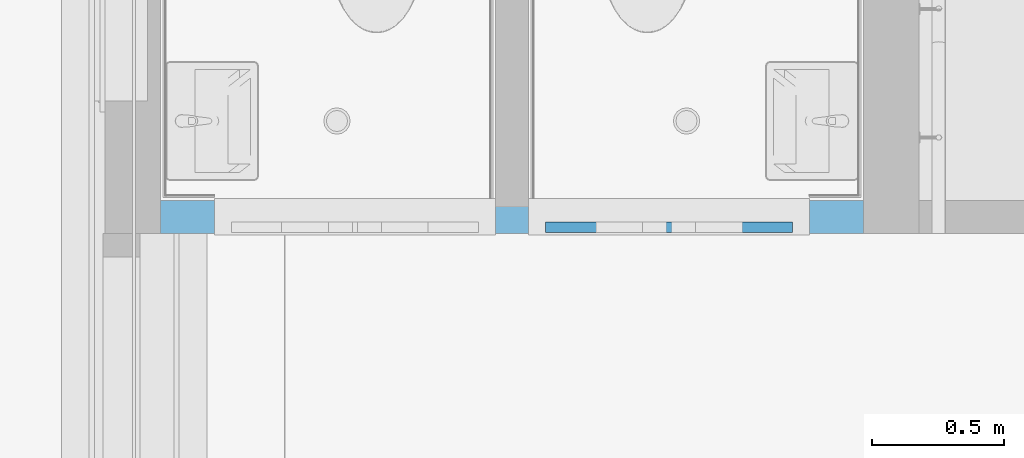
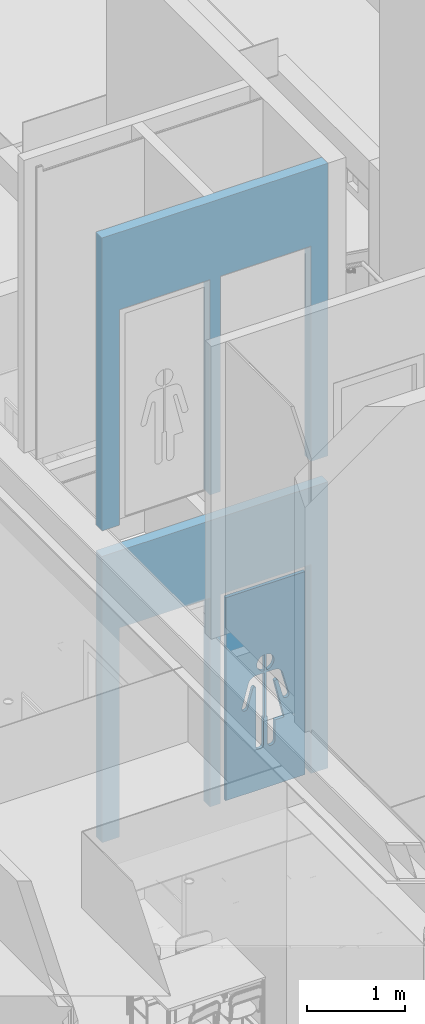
# One storey, part 57 of 347: 1 building element part, 4 openings, 1 element without a shape of its own, plus 1 element that does not belong to this part.
"""IFC2X3 building model written with IfcOpenShell, lengths in millimetres."""

import ifcopenshell
import ifcopenshell.guid

model = None  # the IFC model being written
_history = None  # IfcOwnerHistory: only IFC2X3 demands one
_inside = {}  # id of a spatial element -> (the spatial element, [elements in it])
_under = {}  # id of a project, library or spatial element -> (it, [spatial elements below it])
_declared = {}  # id of a project -> (the project, [libraries it declares])
_typed = {}  # id of a type object -> (the type object, [elements of that type])
_made_of = {}  # id of a material, layer set ... -> (it, [elements and type objects made of it])


def new_model(schema):
    """Start an empty IFC model of exactly this schema.

    Asked for "IFC4X3", IfcOpenShell would pick the latest addendum, in which some entities
    have other attributes; the version numbers below select the first issue.
    IFC2X3 requires an IfcOwnerHistory on every rooted entity: one is made here for all.
    """
    global model, _history
    if schema == "IFC4X3":
        model = ifcopenshell.file(schema_version=(4, 3, 0, 0))
    else:
        model = ifcopenshell.file(schema=schema)
    _inside.clear()
    _under.clear()
    _declared.clear()
    _typed.clear()
    _made_of.clear()
    _history = None
    if model.schema == "IFC2X3":
        org = make("IfcOrganization", Name="unknown")
        user = make(
            "IfcPersonAndOrganization",
            ThePerson=make("IfcPerson", FamilyName="unknown"),
            TheOrganization=org,
        )
        app = make(
            "IfcApplication",
            ApplicationDeveloper=org,
            Version="unknown",
            ApplicationFullName="unknown",
            ApplicationIdentifier="unknown",
        )
        _history = make(
            "IfcOwnerHistory",
            OwningUser=user,
            OwningApplication=app,
            ChangeAction="ADDED",
            CreationDate=0,
        )
    return model


def make(cls, **values):
    """One entity of the class cls with the attributes given. An attribute that is None is left unset."""
    return model.create_entity(
        cls, **{name: value for name, value in values.items() if value is not None}
    )


def entity(cls, *values):
    """Any entity or typed value of the class cls, its attributes in the order of the schema. None: left unset."""
    e = model.create_entity(cls)
    for i, value in enumerate(values):
        if value is not None:
            e[i] = value
    return e


def rooted(cls, **values):
    """An entity with a GlobalId (a new one), such as an element, a storey or a relation."""
    return make(cls, GlobalId=ifcopenshell.guid.new(), OwnerHistory=_history, **values)


def si_unit(unit_type, name, prefix=None):
    """IfcSIUnit, for example si_unit("LENGTHUNIT", "METRE", prefix="MILLI")."""
    return make("IfcSIUnit", UnitType=unit_type, Prefix=prefix, Name=name)


def converted_unit(unit_type, name, factor, base, dimensions=None, offset=None):
    """IfcConversionBasedUnit, such as the inch: factor (a typed value) times the base unit."""
    return make(
        "IfcConversionBasedUnit"
        if offset is None
        else "IfcConversionBasedUnitWithOffset",
        ConversionOffset=offset,
        Dimensions=None
        if dimensions is None
        else entity("IfcDimensionalExponents", *dimensions),
        UnitType=unit_type,
        Name=name,
        ConversionFactor=make(
            "IfcMeasureWithUnit", ValueComponent=factor, UnitComponent=base
        ),
    )


def derived_unit(unit_type, elements):
    """IfcDerivedUnit: a product of units, each with its exponent."""
    return make(
        "IfcDerivedUnit",
        Elements=[
            make("IfcDerivedUnitElement", Unit=unit, Exponent=power)
            for unit, power in elements
        ],
        UnitType=unit_type,
    )


def money_unit(currency):
    """IfcMonetaryUnit."""
    return make("IfcMonetaryUnit", Currency=currency)


def assignment(units):
    """IfcUnitAssignment: the units of a project."""
    return None if units is None else make("IfcUnitAssignment", Units=units)


def point(xyz):
    """IfcCartesianPoint."""
    return None if xyz is None else make("IfcCartesianPoint", Coordinates=xyz)


def direction(xyz):
    """IfcDirection."""
    return None if xyz is None else make("IfcDirection", DirectionRatios=xyz)


def frame(location, z_axis=None, x_axis=None):
    """IfcAxis2Placement3D, a coordinate frame: its origin and axes. An axis left out is left unset."""
    return make(
        "IfcAxis2Placement3D",
        Location=point(location),
        Axis=direction(z_axis),
        RefDirection=direction(x_axis),
    )


def origin_with_axes():
    """The frame at (0, 0, 0) with the z axis (0, 0, 1) and the x axis (1, 0, 0) written out."""
    return frame((0.0, 0.0, 0.0), z_axis=(0.0, 0.0, 1.0), x_axis=(1.0, 0.0, 0.0))


def place(relative_to, where):
    """IfcLocalPlacement: puts the frame where relative to a parent placement (None: the world)."""
    return make(
        "IfcLocalPlacement", PlacementRelTo=relative_to, RelativePlacement=where
    )


def context(
    kind, dimensions, precision=None, world=None, true_north=None, identifier=None
):
    """IfcGeometricRepresentationContext, for example the 3D "Model" context."""
    return make(
        "IfcGeometricRepresentationContext",
        ContextIdentifier=identifier,
        ContextType=kind,
        CoordinateSpaceDimension=dimensions,
        Precision=precision,
        WorldCoordinateSystem=world,
        TrueNorth=true_north,
    )


def subcontext(parent, identifier, kind, view, scale=None):
    """IfcGeometricRepresentationSubContext, for example "Body" below "Model"."""
    return make(
        "IfcGeometricRepresentationSubContext",
        ContextIdentifier=identifier,
        ContextType=kind,
        ParentContext=parent,
        TargetScale=scale,
        TargetView=view,
    )


def project(units=None, contexts=None):
    """IfcProject with its units and contexts."""
    return rooted(
        "IfcProject",
        Name="project",
        RepresentationContexts=contexts,
        UnitsInContext=assignment(units),
    )


def spatial(cls, under=None, at=None, **own):
    """A site, building, storey or space (cls), placed at a placement, below another one or the project."""
    s = rooted(cls, ObjectPlacement=at, **own)
    if under is not None:
        _under.setdefault(under.id(), (under, []))[1].append(s)
    return s


def faces_of(points, faces, orient=None, outer=None):
    """IfcFace entities. A face is a list of loops; a loop is a list of indices into points, from 0.

    orient and outer hold one flag for each loop. By default every Orientation is true, the
    first loop of a face is its IfcFaceOuterBound and the others are IfcFaceBound.
    """
    made = []
    for i, loops in enumerate(faces):
        bounds = []
        for j, loop in enumerate(loops):
            is_outer = j == 0 if outer is None else outer[i][j]
            bounds.append(
                make(
                    "IfcFaceOuterBound" if is_outer else "IfcFaceBound",
                    Bound=make("IfcPolyLoop", Polygon=[points[k] for k in loop]),
                    Orientation=True if orient is None else orient[i][j],
                )
            )
        made.append(make("IfcFace", Bounds=bounds))
    return made


def faceted_brep(points, faces, orient=None, outer=None, voids=None):
    """IfcFacetedBrep: a solid bounded by flat faces; with voids (closed shells), ...WithVoids."""
    shared = [point(p) for p in points]
    hull = make("IfcClosedShell", CfsFaces=faces_of(shared, faces, orient, outer))
    if voids is None:
        return make("IfcFacetedBrep", Outer=hull)
    return make(
        "IfcFacetedBrepWithVoids",
        Outer=hull,
        Voids=[
            make(cls, CfsFaces=faces_of(shared, fs, o, b)) for cls, fs, o, b in voids
        ],
    )


def shape(context_of_items, identifier, shape_type, items):
    """IfcShapeRepresentation: the items that make up one representation, for example the "Body"."""
    return make(
        "IfcShapeRepresentation",
        ContextOfItems=context_of_items,
        RepresentationIdentifier=identifier,
        RepresentationType=shape_type,
        Items=items,
    )


def source(mapping_origin, context_of_items, identifier, shape_type, items):
    """IfcRepresentationMap: a shape defined once, which mapped items show again and again."""
    return make(
        "IfcRepresentationMap",
        MappingOrigin=mapping_origin,
        MappedRepresentation=shape(context_of_items, identifier, shape_type, items),
    )


def transform(
    local_origin,
    x_axis=None,
    y_axis=None,
    z_axis=None,
    scale=None,
    scale2=None,
    scale3=None,
    uniform=True,
):
    """IfcCartesianTransformationOperator3D, or its non-uniform kind. x_axis, y_axis, z_axis: its Axis1, 2, 3."""
    if uniform:
        return make(
            "IfcCartesianTransformationOperator3D",
            Axis1=direction(x_axis),
            Axis2=direction(y_axis),
            LocalOrigin=point(local_origin),
            Scale=scale,
            Axis3=direction(z_axis),
        )
    return make(
        "IfcCartesianTransformationOperator3DnonUniform",
        Axis1=direction(x_axis),
        Axis2=direction(y_axis),
        LocalOrigin=point(local_origin),
        Scale=scale,
        Axis3=direction(z_axis),
        Scale2=scale2,
        Scale3=scale3,
    )


def mapped(mapping_source, mapping_target):
    """IfcMappedItem: shows the shape of a source again, moved by a transform."""
    return make(
        "IfcMappedItem", MappingSource=mapping_source, MappingTarget=mapping_target
    )


def material(Name=None, Category=None):
    """IfcMaterial."""
    return make("IfcMaterial", Name=Name, Category=Category)


def made_of(thing, what):
    """Note that an element or type object is made of a material, layer set ...; save() writes the relation."""
    if what is not None:
        _made_of.setdefault(what.id(), (what, []))[1].append(thing)
    return thing


def type_object(cls, material=None, **own):
    """A type object (cls), such as IfcWallType, which elements share."""
    return made_of(rooted(cls, **own), material)


def element(
    cls,
    number,
    at=None,
    inside=None,
    cuts=None,
    type_object=None,
    material=None,
    context=None,
    identifier="Body",
    shape_type=None,
    held_by="IfcProductDefinitionShape",
    body=None,
    shapes=None,
    **own,
):
    """One element of the class cls, such as IfcWall. Its Tag is "e" and its number.

    at: its placement. inside: the storey or other place that contains it. cuts: it is an
    opening in that element (IfcRelVoidsElement). A single representation is given by context,
    identifier, shape_type and body (its items); several are given by shapes. held_by: the class
    of the entity that holds the representations. save() writes the other relations.
    """
    e = rooted(cls, Tag="e%d" % number, ObjectPlacement=at, **own)
    if body is not None:
        shapes = [shape(context, identifier, shape_type, body)]
    if shapes is not None:
        e.Representation = make(held_by, Representations=shapes)
    if inside is not None:
        _inside.setdefault(inside.id(), (inside, []))[1].append(e)
    if cuts is not None:
        rooted(
            "IfcRelVoidsElement", RelatingBuildingElement=cuts, RelatedOpeningElement=e
        )
    if type_object is not None:
        _typed.setdefault(type_object.id(), (type_object, []))[1].append(e)
    return made_of(e, material)


def fill(opening, filler):
    """IfcRelFillsElement: the door or window that sits in an opening."""
    return rooted(
        "IfcRelFillsElement",
        RelatingOpeningElement=opening,
        RelatedBuildingElement=filler,
    )


def aggregate(whole, parts):
    """IfcRelAggregates: a whole, such as a stair, and the parts it consists of."""
    return rooted("IfcRelAggregates", RelatingObject=whole, RelatedObjects=parts)


def save(model, path):
    """Write the relations noted so far, then the file.

    IfcRelAggregates (storeys below a building ...), IfcRelContainedInSpatialStructure (elements
    in a storey), IfcRelDefinesByType, IfcRelAssociatesMaterial and IfcRelDeclares: one each for
    every whole, place, type object, material and project.
    """
    for whole, parts in _under.values():
        aggregate(whole, parts)
    for where, things in _inside.values():
        rooted(
            "IfcRelContainedInSpatialStructure",
            RelatedElements=things,
            RelatingStructure=where,
        )
    for kind, things in _typed.values():
        rooted("IfcRelDefinesByType", RelatedObjects=things, RelatingType=kind)
    for what, things in _made_of.values():
        rooted("IfcRelAssociatesMaterial", RelatedObjects=things, RelatingMaterial=what)
    for by, libraries in _declared.values():
        rooted("IfcRelDeclares", RelatingContext=by, RelatedDefinitions=libraries)
    model.write(path)


model = new_model("IFC2X3")

# Units and contexts
model_context = context("Model", 3, precision=0.01, world=origin_with_axes(), true_north=direction((0.0, 1.0)))
plan_context = context("Plan", 3, precision=0.01, world=origin_with_axes(), true_north=direction((0.0, 1.0)))
body_context = subcontext(model_context, "Body", "Model", "MODEL_VIEW")
ifc_project = project(units=[si_unit("LENGTHUNIT", "METRE", prefix="MILLI"), si_unit("AREAUNIT", "SQUARE_METRE"), si_unit("VOLUMEUNIT", "CUBIC_METRE"), converted_unit("PLANEANGLEUNIT", "DEGREE", entity("IfcPlaneAngleMeasure", 0.0174532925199), si_unit("PLANEANGLEUNIT", "RADIAN"), dimensions=[0, 0, 0, 0, 0, 0, 0]), money_unit("EUR"), converted_unit("TIMEUNIT", "Year", entity("IfcTimeMeasure", 31556926.0), si_unit("TIMEUNIT", "SECOND"), dimensions=[0, 0, 1, 0, 0, 0, 0]), si_unit("MASSUNIT", "GRAM", prefix="KILO"), si_unit("THERMODYNAMICTEMPERATUREUNIT", "DEGREE_CELSIUS"), si_unit("LUMINOUSINTENSITYUNIT", "LUMEN"), si_unit("ENERGYUNIT", "JOULE", prefix="MEGA"), derived_unit("THERMALCONDUCTANCEUNIT", [(si_unit("POWERUNIT", "WATT"), 1), (si_unit("LENGTHUNIT", "METRE"), -1), (si_unit("THERMODYNAMICTEMPERATUREUNIT", "KELVIN"), -1)]), derived_unit("SPECIFICHEATCAPACITYUNIT", [(si_unit("ENERGYUNIT", "JOULE"), 1), (si_unit("MASSUNIT", "GRAM", prefix="KILO"), -1), (si_unit("THERMODYNAMICTEMPERATUREUNIT", "KELVIN"), -1)]), derived_unit("MASSDENSITYUNIT", [(si_unit("MASSUNIT", "GRAM", prefix="KILO"), 1), (si_unit("VOLUMEUNIT", "CUBIC_METRE"), -1)])], contexts=[model_context, plan_context])

# Site, building, storey
site_placement = place(None, origin_with_axes())
site = spatial("IfcSite", under=ifc_project, at=site_placement, Name="Site", CompositionType="ELEMENT")
building_placement = place(site_placement, origin_with_axes())
building = spatial("IfcBuilding", under=site, at=building_placement, Name="Naam gebouw", CompositionType="ELEMENT")
storey_placement = place(building_placement, origin_with_axes())
storey = spatial("IfcBuildingStorey", under=building, at=storey_placement, Name="begane grond", CompositionType="ELEMENT", Elevation=0.0)

# Wall, openings, door, building element part
ifc_material_1 = material(Name="ALG - LICHTE SCHEIDINGSWAND")
wall_type = type_object("IfcWallType", Name="ALG LSW 125 125", PredefinedType="NOTDEFINED")
wall_placement = place(storey_placement, frame((35705.0, 30074.9999277, 0.0), z_axis=(0.0, 0.0, 1.0), x_axis=(1.0, 0.0, 0.0)))
wall = element("IfcWall", 1, at=wall_placement, inside=storey, type_object=wall_type, material=ifc_material_1, Name="22_GF 125 ECO DGS/2.75.2A", context=body_context, shape_type="Brep", body=[
    faceted_brep([(1392.5, 125.0, 2600.0), (1392.5, 125.0, 0.0), (1267.5, 125.0, 0.0), (1267.5, 125.0, 2600.0), (203.5, 125.0, 2600.0), (203.5, 125.0, 0.0), (0.0, 125.0, 0.0), (0.0, 125.0, 3560.0), (2660.0, 125.0, 3560.0), (2660.0, 125.0, 0.0), (2456.5, 125.0, 0.0), (2456.5, 125.0, 2600.0), (1392.5, 0.0, 2600.0), (1392.5, 0.0, 0.0), (1267.5, 0.0, 0.0), (1267.5, 0.0, 2600.0), (203.5, 0.0, 2600.0), (203.5, 0.0, 0.0), (0.0, 0.0, 0.0), (0.0, 0.0, 3560.0), (2660.0, 0.0, 3560.0), (2660.0, 0.0, 0.0), (2456.5, 0.0, 0.0), (2456.5, 0.0, 2600.0)], [[[0, 1, 2, 3, 4, 5, 6, 7, 8, 9, 10, 11]], [[1, 0, 12, 13]], [[1, 13, 14, 2]], [[2, 14, 15, 3]], [[3, 15, 16, 4]], [[4, 16, 17, 5]], [[17, 18, 6, 5]], [[7, 6, 18, 19]], [[8, 7, 19, 20]], [[20, 21, 9, 8]], [[22, 10, 9, 21]], [[11, 10, 22, 23]], [[0, 11, 23, 12]], [[23, 22, 21, 20, 19, 18, 17, 16, 15, 14, 13, 12]]]),
    faceted_brep([(203.5, 125.0, 6560.0), (203.5, 125.0, 3960.0), (203.5, 125.0, 3880.0), (0.0, 125.0, 3880.0), (0.0, 125.0, 7520.0), (2660.0, 125.0, 7520.0), (2660.0, 125.0, 3880.0), (2456.5, 125.0, 3880.0), (2456.5, 125.0, 3960.0), (2456.5, 125.0, 6560.0), (1392.5, 125.0, 6560.0), (1392.5, 125.0, 3960.0), (1392.5, 125.0, 3880.0), (1267.5, 125.0, 3880.0), (1267.5, 125.0, 3960.0), (1267.5, 125.0, 6560.0), (203.5, 0.0, 6560.0), (203.5, 0.0, 3960.0), (203.5, 0.0, 3880.0), (0.0, 0.0, 3880.0), (0.0, 0.0, 7520.0), (2660.0, 0.0, 7520.0), (2660.0, 0.0, 3880.0), (2456.5, 0.0, 3880.0), (2456.5, 0.0, 3960.0), (2456.5, 0.0, 6560.0), (1392.5, 0.0, 6560.0), (1392.5, 0.0, 3960.0), (1392.5, 0.0, 3880.0), (1267.5, 0.0, 3880.0), (1267.5, 0.0, 3960.0), (1267.5, 0.0, 6560.0)], [[[0, 1, 2, 3, 4, 5, 6, 7, 8, 9, 10, 11, 12, 13, 14, 15]], [[1, 0, 16, 17]], [[1, 17, 18, 2]], [[18, 19, 3, 2]], [[19, 20, 4, 3]], [[4, 20, 21, 5]], [[6, 5, 21, 22]], [[7, 6, 22, 23]], [[8, 7, 23, 24]], [[8, 24, 25, 9]], [[9, 25, 26, 10]], [[10, 26, 27, 11]], [[27, 28, 12, 11]], [[28, 29, 13, 12]], [[30, 14, 13, 29]], [[15, 14, 30, 31]], [[0, 15, 31, 16]], [[31, 30, 29, 28, 27, 26, 25, 24, 23, 22, 21, 20, 19, 18, 17, 16]]]),
])
opening_1_placement = place(wall_placement, frame((735.5, 0.0, 0.0), z_axis=(0.0, 0.0, 1.0), x_axis=(1.0, 0.0, 0.0)))
element("IfcOpeningElement", 2, at=opening_1_placement, cuts=wall, Name="32_02.05", context=body_context, shape_type="Brep", body=[
    faceted_brep([(-532.0, 125.0, 2600.0), (-532.0, 125.0, 0.0), (-532.0, -257.0, 0.0), (-532.0, -257.0, 2600.0), (532.0, 125.0, 2600.0), (532.0, 125.0, 0.0), (532.0, -257.0, 0.0), (532.0, -257.0, 2600.0)], [[[0, 1, 2, 3]], [[0, 4, 5, 1]], [[1, 5, 6, 2]], [[3, 2, 6, 7]], [[4, 0, 3, 7]], [[5, 4, 7, 6]]]),
])
opening_2_placement = place(wall_placement, frame((1924.5, 0.0, 0.0), z_axis=(0.0, 0.0, 1.0), x_axis=(1.0, 0.0, 0.0)))
opening_2 = element("IfcOpeningElement", 3, at=opening_2_placement, cuts=wall, Name="32_02.05", context=body_context, shape_type="Brep", body=[
    faceted_brep([(-532.0, 125.0, 2600.0), (-532.0, 125.0, 0.0), (-532.0, -257.0, 0.0), (-532.0, -257.0, 2600.0), (532.0, 125.0, 2600.0), (532.0, 125.0, 0.0), (532.0, -257.0, 0.0), (532.0, -257.0, 2600.0)], [[[0, 1, 2, 3]], [[0, 4, 5, 1]], [[1, 5, 6, 2]], [[3, 2, 6, 7]], [[4, 0, 3, 7]], [[5, 4, 7, 6]]]),
])
opening_3_placement = place(wall_placement, frame((1924.5, 0.0, 3960.0), z_axis=(0.0, 0.0, 1.0), x_axis=(1.0, 0.0, 0.0)))
element("IfcOpeningElement", 4, at=opening_3_placement, cuts=wall, Name="32_02.05", context=body_context, shape_type="Brep", body=[
    faceted_brep([(-532.0, -125.0, 0.0), (-532.0, -125.0, 2600.0), (-532.0, 257.0, 2600.0), (-532.0, 257.0, 0.0), (532.0, -125.0, 0.0), (532.0, -125.0, 2600.0), (532.0, 257.0, 2600.0), (532.0, 257.0, 0.0)], [[[0, 1, 2, 3]], [[0, 4, 5, 1]], [[1, 5, 6, 2]], [[3, 2, 6, 7]], [[4, 0, 3, 7]], [[5, 4, 7, 6]]]),
])
opening_4_placement = place(wall_placement, frame((735.5, 0.0, 3960.0), z_axis=(0.0, 0.0, 1.0), x_axis=(1.0, 0.0, 0.0)))
element("IfcOpeningElement", 5, at=opening_4_placement, cuts=wall, Name="32_02.05", context=body_context, shape_type="Brep", body=[
    faceted_brep([(-532.0, -125.0, 0.0), (-532.0, -125.0, 2600.0), (-532.0, 257.0, 2600.0), (-532.0, 257.0, 0.0), (532.0, -125.0, 0.0), (532.0, -125.0, 2600.0), (532.0, 257.0, 2600.0), (532.0, 257.0, 0.0)], [[[0, 1, 2, 3]], [[0, 4, 5, 1]], [[1, 5, 6, 2]], [[3, 2, 6, 7]], [[4, 0, 3, 7]], [[5, 4, 7, 6]]]),
])
door_style = type_object("IfcDoorStyle", Name="D1 25", ConstructionType="NOTDEFINED", OperationType="SINGLE_SWING_RIGHT", ParameterTakesPrecedence=False, Sizeable=False)
door_placement = place(opening_2_placement, frame((532.0, 0.0, 0.0), z_axis=(0.0, 0.0, 1.0), x_axis=(-1.0, 0.0, 0.0)))
door = element("IfcDoor", 6, at=door_placement, inside=storey, type_object=door_style, Name="32_02.05", ObjectType="DOOR", OverallHeight=2600.0, OverallWidth=1064.0)
fill(opening_2, door)
ifc_material_2 = material(Name="Hout C")
shared_shape = source(origin_with_axes(), body_context, "Body", "Brep", [
    faceted_brep([(467.0, -10.0, 2535.0), (467.0, -50.0, 2535.0), (467.0, -50.0, 10.0), (467.0, -10.0, 10.0), (-467.0, -10.0, 2535.0), (-467.0, -50.0, 2535.0), (-467.0, -50.0, 10.0), (-10.0430200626, -50.0, 890.229090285), (-25.1075218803, -50.0, 890.229090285), (-25.1075218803, -50.0, 563.286854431), (-24.6932816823, -50.0, 559.546364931), (-25.1742831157, -50.0, 552.034934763), (-26.9501513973, -50.0, 544.721284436), (-29.9669276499, -50.0, 537.827635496), (-34.1329486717, -50.0, 531.563447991), (-39.3216320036, -50.0, 526.119056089), (-45.3753221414, -50.0, 521.659884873), (-52.1100807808, -50.0, 518.321424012), (-59.3212756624, -50.0, 516.205110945), (-66.7897983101, -50.0, 515.375248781), (-74.2887214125, -50.0, 515.857052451), (-81.5901940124, -50.0, 517.635882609), (-88.4723645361, -50.0, 520.657690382), (-94.7261217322, -50.0, 524.830659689), (-100.161448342, -50.0, 530.027996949), (-104.613194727, -50.0, 536.091783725), (-107.946096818, -50.0, 542.8377749), (-110.058886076, -50.0, 550.06099695), (-110.887366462, -50.0, 557.54197595), (-110.473126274, -50.0, 563.286854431), (-110.473126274, -50.0, 814.780876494), (-219.866038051, -50.0, 814.780876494), (-108.013455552, -50.0, 1292.61952191), (-108.785274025, -50.0, 1296.47224326), (-110.199691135, -50.0, 1299.82482097), (-112.173819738, -50.0, 1302.8804449), (-114.647676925, -50.0, 1305.54627145), (-117.546095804, -50.0, 1307.74130085), (-120.781009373, -50.0, 1309.39883823), (-124.254126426, -50.0, 1310.46852015), (-127.859918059, -50.0, 1310.91784487), (-131.488824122, -50.0, 1310.73315989), (-135.030582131, -50.0, 1309.92007677), (-138.377577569, -50.0, 1308.50330061), (-141.428113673, -50.0, 1306.52587948), (-144.089501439, -50.0, 1304.04789628), (-146.280875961, -50.0, 1301.14464328), (-147.935653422, -50.0, 1297.90433437), (-149.003554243, -50.0, 1294.42542469), (-149.227842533, -50.0, 1292.61952191), (-207.923578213, -50.0, 1073.19870027), (-208.719139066, -50.0, 1070.22315824), (-211.317762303, -50.0, 1064.63924071), (-214.844929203, -50.0, 1059.59215425), (-219.193468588, -50.0, 1055.235252), (-224.231252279, -50.0, 1051.70091623), (-229.805209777, -50.0, 1049.09653598), (-235.745979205, -50.0, 1047.50124399), (-241.873053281, -50.0, 1046.96351241), (-248.000263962, -50.0, 1047.49967995), (-253.941439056, -50.0, 1049.09345542), (-259.516058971, -50.0, 1051.69641276), (-264.554741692, -50.0, 1055.22946244), (-268.904389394, -50.0, 1059.58525451), (-272.432840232, -50.0, 1064.63144045), (-275.032884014, -50.0, 1070.21469446), (-276.625519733, -50.0, 1076.16537218), (-277.162355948, -50.0, 1082.30266527), (-276.62708117, -50.0, 1088.44009521), (-275.831520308, -50.0, 1091.41563724), (-201.58891637, -50.0, 1368.954906), (-199.31480372, -50.0, 1377.45616444), (-191.888136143, -50.0, 1393.40926659), (-181.808681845, -50.0, 1407.82822709), (-169.382699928, -50.0, 1420.27493311), (-154.98774758, -50.0, 1430.37119778), (-139.061208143, -50.0, 1437.81025123), (-122.087001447, -50.0, 1442.36606156), (-104.580882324, -50.0, 1443.51593625), (-10.0430200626, -50.0, 1443.51593625), (-10.0430200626, -50.0, 1669.35630499), (-10.0430200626, -50.0, 1469.16959144), (-18.7854730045, -50.0, 1470.04970729), (-35.6995917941, -50.0, 1474.82448312), (-51.5289965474, -50.0, 1482.46872393), (-65.7927188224, -50.0, 1492.75016333), (-78.0573626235, -50.0, 1505.35640498), (-87.9502729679, -50.0, 1519.90441461), (-95.1708587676, -50.0, 1535.9521583), (-99.4997261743, -50.0, 1553.01203348), (-100.430107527, -50.0, 1569.26294821), (-100.430107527, -50.0, 1578.06409863), (-97.3785895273, -50.0, 1595.39898096), (-91.368272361, -50.0, 1611.93973315), (-82.5817764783, -50.0, 1627.18377283), (-71.2860751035, -50.0, 1640.66791757), (-57.8243824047, -50.0, 1651.98245845), (-42.6057251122, -50.0, 1660.78360886), (-26.0925144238, -50.0, 1666.80395031), (10.0430200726, -50.0, 1669.35630499), (18.7854730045, -50.0, 1668.47618914), (35.6995917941, -50.0, 1663.7014133), (51.5289965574, -50.0, 1656.05717249), (65.7927188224, -50.0, 1645.77573309), (78.0573626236, -50.0, 1633.16949145), (87.9502729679, -50.0, 1618.62148182), (95.1708587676, -50.0, 1602.57373813), (99.4997261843, -50.0, 1585.51386294), (100.430107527, -50.0, 1569.26294821), (100.430107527, -50.0, 1560.4617978), (97.3785895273, -50.0, 1543.12691547), (91.368272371, -50.0, 1526.58616327), (82.5817764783, -50.0, 1511.34212359), (71.2860751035, -50.0, 1497.85797885), (57.8243824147, -50.0, 1486.54343798), (42.6057251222, -50.0, 1477.74228756), (26.0925144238, -50.0, 1471.72194611), (10.0430200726, -50.0, 1469.16959144), (276.62552127, -50.0, 1088.44895872), (277.162357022, -50.0, 1082.31166558), (276.627081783, -50.0, 1076.17423568), (275.035959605, -50.0, 1070.22315174), (272.437335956, -50.0, 1064.63923441), (268.910168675, -50.0, 1059.59214821), (264.561628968, -50.0, 1055.23524628), (259.523845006, -50.0, 1051.70091091), (253.949887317, -50.0, 1049.09653107), (248.009117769, -50.0, 1047.50123953), (241.882043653, -50.0, 1046.96350842), (235.754833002, -50.0, 1047.49967641), (229.813658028, -50.0, 1049.09345233), (224.239038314, -50.0, 1051.6964101), (219.200355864, -50.0, 1055.22946015), (214.850708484, -50.0, 1059.58525256), (211.322258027, -50.0, 1064.63143877), (208.722214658, -50.0, 1070.21469297), (207.923578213, -50.0, 1073.19870026), (149.011836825, -50.0, 1292.61952191), (148.349375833, -50.0, 1295.95494878), (147.047948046, -50.0, 1299.10211348), (145.220702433, -50.0, 1301.97509819), (142.923158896, -50.0, 1304.48660874), (140.225127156, -50.0, 1306.56033414), (137.208585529, -50.0, 1308.13326528), (133.965190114, -50.0, 1309.15760948), (130.593489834, -50.0, 1309.60224253), (127.195932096, -50.0, 1309.45365449), (123.875749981, -50.0, 1308.71636013), (120.733825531, -50.0, 1307.41276178), (117.865624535, -50.0, 1305.58246859), (115.358295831, -50.0, 1303.2810931), (113.288023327, -50.0, 1300.57856146), (111.717711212, -50.0, 1297.5569887), (110.695072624, -50.0, 1294.3081838), (110.473126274, -50.0, 1292.61952191), (110.473126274, -50.0, 563.286854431), (110.887366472, -50.0, 559.546364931), (110.406365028, -50.0, 552.034934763), (108.630496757, -50.0, 544.721284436), (105.613720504, -50.0, 537.827635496), (101.447699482, -50.0, 531.563447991), (96.2590161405, -50.0, 526.119056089), (90.2053260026, -50.0, 521.659884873), (83.4705673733, -50.0, 518.321424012), (76.2593724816, -50.0, 516.205110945), (68.790849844, -50.0, 515.375248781), (61.2919267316, -50.0, 515.857052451), (53.9904541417, -50.0, 517.635882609), (47.1082836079, -50.0, 520.657690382), (40.8545264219, -50.0, 524.830659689), (35.4191998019, -50.0, 530.027996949), (30.9674534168, -50.0, 536.091783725), (27.6345513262, -50.0, 542.8377749), (25.5217620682, -50.0, 550.06099695), (24.6932816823, -50.0, 557.54197595), (25.1075218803, -50.0, 563.286854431), (25.1075218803, -50.0, 890.229090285), (10.0430200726, -50.0, 890.229090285), (10.0430200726, -50.0, 1443.51593625), (104.580882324, -50.0, 1443.51593625), (113.367378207, -50.0, 1443.51593625), (130.673396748, -50.0, 1440.4593288), (147.186607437, -50.0, 1434.43898735), (162.405264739, -50.0, 1425.63783693), (175.866957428, -50.0, 1414.32329606), (187.162658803, -50.0, 1400.83915132), (195.949154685, -50.0, 1385.59511164), (201.58891637, -50.0, 1368.954906), (-467.0, -10.0, 10.0), (-10.0430200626, -10.0, 890.229090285), (-10.0430200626, -10.0, 1443.51593625), (-104.580882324, -10.0, 1443.51593625), (-122.087001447, -10.0, 1442.36606156), (-139.061208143, -10.0, 1437.81025123), (-154.98774758, -10.0, 1430.37119778), (-169.382699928, -10.0, 1420.27493311), (-181.808681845, -10.0, 1407.82822709), (-191.888136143, -10.0, 1393.40926659), (-199.31480372, -10.0, 1377.45616444), (-201.58891637, -10.0, 1368.954906), (-275.831520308, -10.0, 1091.41563724), (-276.62708117, -10.0, 1088.44009521), (-277.162355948, -10.0, 1082.30266527), (-276.625519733, -10.0, 1076.16537218), (-275.032884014, -10.0, 1070.21469446), (-272.432840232, -10.0, 1064.63144045), (-268.904389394, -10.0, 1059.58525451), (-264.554741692, -10.0, 1055.22946244), (-259.516058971, -10.0, 1051.69641276), (-253.941439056, -10.0, 1049.09345542), (-248.000263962, -10.0, 1047.49967995), (-241.873053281, -10.0, 1046.96351241), (-235.745979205, -10.0, 1047.50124399), (-229.805209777, -10.0, 1049.09653598), (-224.231252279, -10.0, 1051.70091623), (-219.193468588, -10.0, 1055.235252), (-214.844929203, -10.0, 1059.59215425), (-211.317762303, -10.0, 1064.63924071), (-208.719139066, -10.0, 1070.22315824), (-207.923578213, -10.0, 1073.19870027), (-149.227842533, -10.0, 1292.61952191), (-149.003554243, -10.0, 1294.42542469), (-147.935653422, -10.0, 1297.90433437), (-146.280875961, -10.0, 1301.14464328), (-144.089501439, -10.0, 1304.04789628), (-141.428113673, -10.0, 1306.52587948), (-138.377577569, -10.0, 1308.50330061), (-135.030582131, -10.0, 1309.92007677), (-131.488824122, -10.0, 1310.73315989), (-127.859918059, -10.0, 1310.91784487), (-124.254126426, -10.0, 1310.46852015), (-120.781009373, -10.0, 1309.39883823), (-117.546095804, -10.0, 1307.74130085), (-114.647676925, -10.0, 1305.54627145), (-112.173819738, -10.0, 1302.8804449), (-110.199691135, -10.0, 1299.82482097), (-108.785274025, -10.0, 1296.47224326), (-108.013455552, -10.0, 1292.61952191), (-219.866038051, -10.0, 814.780876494), (-110.473126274, -10.0, 814.780876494), (-110.473126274, -10.0, 563.286854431), (-110.887366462, -10.0, 557.54197595), (-110.058886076, -10.0, 550.06099695), (-107.946096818, -10.0, 542.8377749), (-104.613194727, -10.0, 536.091783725), (-100.161448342, -10.0, 530.027996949), (-94.7261217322, -10.0, 524.830659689), (-88.4723645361, -10.0, 520.657690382), (-81.5901940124, -10.0, 517.635882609), (-74.2887214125, -10.0, 515.857052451), (-66.7897983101, -10.0, 515.375248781), (-59.3212756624, -10.0, 516.205110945), (-52.1100807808, -10.0, 518.321424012), (-45.3753221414, -10.0, 521.659884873), (-39.3216320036, -10.0, 526.119056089), (-34.1329486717, -10.0, 531.563447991), (-29.9669276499, -10.0, 537.827635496), (-26.9501513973, -10.0, 544.721284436), (-25.1742831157, -10.0, 552.034934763), (-24.6932816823, -10.0, 559.546364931), (-25.1075218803, -10.0, 563.286854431), (-25.1075218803, -10.0, 890.229090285), (-10.0430200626, -10.0, 1669.35630499), (-26.0925144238, -10.0, 1666.80395031), (-42.6057251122, -10.0, 1660.78360886), (-57.8243824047, -10.0, 1651.98245845), (-71.2860751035, -10.0, 1640.66791757), (-82.5817764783, -10.0, 1627.18377283), (-91.368272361, -10.0, 1611.93973315), (-97.3785895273, -10.0, 1595.39898096), (-100.430107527, -10.0, 1578.06409863), (-100.430107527, -10.0, 1569.26294821), (-99.4997261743, -10.0, 1553.01203348), (-95.1708587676, -10.0, 1535.9521583), (-87.9502729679, -10.0, 1519.90441461), (-78.0573626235, -10.0, 1505.35640498), (-65.7927188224, -10.0, 1492.75016333), (-51.5289965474, -10.0, 1482.46872393), (-35.6995917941, -10.0, 1474.82448312), (-18.7854730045, -10.0, 1470.04970729), (-10.0430200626, -10.0, 1469.16959144), (10.0430200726, -10.0, 1669.35630499), (10.0430200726, -10.0, 1469.16959144), (26.0925144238, -10.0, 1471.72194611), (42.6057251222, -10.0, 1477.74228756), (57.8243824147, -10.0, 1486.54343798), (71.2860751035, -10.0, 1497.85797885), (82.5817764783, -10.0, 1511.34212359), (91.368272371, -10.0, 1526.58616327), (97.3785895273, -10.0, 1543.12691547), (100.430107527, -10.0, 1560.4617978), (100.430107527, -10.0, 1569.26294821), (99.4997261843, -10.0, 1585.51386294), (95.1708587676, -10.0, 1602.57373813), (87.9502729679, -10.0, 1618.62148182), (78.0573626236, -10.0, 1633.16949145), (65.7927188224, -10.0, 1645.77573309), (51.5289965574, -10.0, 1656.05717249), (35.6995917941, -10.0, 1663.7014133), (18.7854730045, -10.0, 1668.47618914), (276.62552127, -10.0, 1088.44895872), (201.58891637, -10.0, 1368.954906), (195.949154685, -10.0, 1385.59511164), (187.162658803, -10.0, 1400.83915132), (175.866957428, -10.0, 1414.32329606), (162.405264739, -10.0, 1425.63783693), (147.186607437, -10.0, 1434.43898735), (130.673396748, -10.0, 1440.4593288), (113.367378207, -10.0, 1443.51593625), (104.580882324, -10.0, 1443.51593625), (10.0430200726, -10.0, 1443.51593625), (10.0430200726, -10.0, 890.229090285), (25.1075218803, -10.0, 890.229090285), (25.1075218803, -10.0, 563.286854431), (24.6932816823, -10.0, 557.54197595), (25.5217620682, -10.0, 550.06099695), (27.6345513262, -10.0, 542.8377749), (30.9674534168, -10.0, 536.091783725), (35.4191998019, -10.0, 530.027996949), (40.8545264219, -10.0, 524.830659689), (47.1082836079, -10.0, 520.657690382), (53.9904541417, -10.0, 517.635882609), (61.2919267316, -10.0, 515.857052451), (68.790849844, -10.0, 515.375248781), (76.2593724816, -10.0, 516.205110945), (83.4705673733, -10.0, 518.321424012), (90.2053260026, -10.0, 521.659884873), (96.2590161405, -10.0, 526.119056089), (101.447699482, -10.0, 531.563447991), (105.613720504, -10.0, 537.827635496), (108.630496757, -10.0, 544.721284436), (110.406365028, -10.0, 552.034934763), (110.887366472, -10.0, 559.546364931), (110.473126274, -10.0, 563.286854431), (110.473126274, -10.0, 1292.61952191), (110.695072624, -10.0, 1294.3081838), (111.717711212, -10.0, 1297.5569887), (113.288023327, -10.0, 1300.57856146), (115.358295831, -10.0, 1303.2810931), (117.865624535, -10.0, 1305.58246859), (120.733825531, -10.0, 1307.41276178), (123.875749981, -10.0, 1308.71636013), (127.195932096, -10.0, 1309.45365449), (130.593489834, -10.0, 1309.60224253), (133.965190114, -10.0, 1309.15760948), (137.208585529, -10.0, 1308.13326528), (140.225127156, -10.0, 1306.56033414), (142.923158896, -10.0, 1304.48660874), (145.220702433, -10.0, 1301.97509819), (147.047948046, -10.0, 1299.10211348), (148.349375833, -10.0, 1295.95494878), (149.011836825, -10.0, 1292.61952191), (207.923578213, -10.0, 1073.19870026), (208.722214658, -10.0, 1070.21469297), (211.322258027, -10.0, 1064.63143877), (214.850708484, -10.0, 1059.58525256), (219.200355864, -10.0, 1055.22946015), (224.239038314, -10.0, 1051.6964101), (229.813658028, -10.0, 1049.09345233), (235.754833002, -10.0, 1047.49967641), (241.882043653, -10.0, 1046.96350842), (248.009117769, -10.0, 1047.50123953), (253.949887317, -10.0, 1049.09653107), (259.523845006, -10.0, 1051.70091091), (264.561628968, -10.0, 1055.23524628), (268.910168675, -10.0, 1059.59214821), (272.437335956, -10.0, 1064.63923441), (275.035959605, -10.0, 1070.22315174), (276.627081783, -10.0, 1076.17423568), (277.162357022, -10.0, 1082.31166558)], [[[0, 1, 2, 3]], [[4, 5, 1, 0]], [[1, 5, 6, 2], [7, 8, 9, 10, 11, 12, 13, 14, 15, 16, 17, 18, 19, 20, 21, 22, 23, 24, 25, 26, 27, 28, 29, 30, 31, 32, 33, 34, 35, 36, 37, 38, 39, 40, 41, 42, 43, 44, 45, 46, 47, 48, 49, 50, 51, 52, 53, 54, 55, 56, 57, 58, 59, 60, 61, 62, 63, 64, 65, 66, 67, 68, 69, 70, 71, 72, 73, 74, 75, 76, 77, 78, 79], [80, 81, 82, 83, 84, 85, 86, 87, 88, 89, 90, 91, 92, 93, 94, 95, 96, 97, 98], [99, 100, 101, 102, 103, 104, 105, 106, 107, 108, 109, 110, 111, 112, 113, 114, 115, 116, 117], [118, 119, 120, 121, 122, 123, 124, 125, 126, 127, 128, 129, 130, 131, 132, 133, 134, 135, 136, 137, 138, 139, 140, 141, 142, 143, 144, 145, 146, 147, 148, 149, 150, 151, 152, 153, 154, 155, 156, 157, 158, 159, 160, 161, 162, 163, 164, 165, 166, 167, 168, 169, 170, 171, 172, 173, 174, 175, 176, 177, 178, 179, 180, 181, 182, 183, 184, 185, 186, 187]], [[3, 2, 6, 188]], [[0, 3, 188, 4], [189, 190, 191, 192, 193, 194, 195, 196, 197, 198, 199, 200, 201, 202, 203, 204, 205, 206, 207, 208, 209, 210, 211, 212, 213, 214, 215, 216, 217, 218, 219, 220, 221, 222, 223, 224, 225, 226, 227, 228, 229, 230, 231, 232, 233, 234, 235, 236, 237, 238, 239, 240, 241, 242, 243, 244, 245, 246, 247, 248, 249, 250, 251, 252, 253, 254, 255, 256, 257, 258, 259, 260, 261], [262, 263, 264, 265, 266, 267, 268, 269, 270, 271, 272, 273, 274, 275, 276, 277, 278, 279, 280], [281, 282, 283, 284, 285, 286, 287, 288, 289, 290, 291, 292, 293, 294, 295, 296, 297, 298, 299], [300, 301, 302, 303, 304, 305, 306, 307, 308, 309, 310, 311, 312, 313, 314, 315, 316, 317, 318, 319, 320, 321, 322, 323, 324, 325, 326, 327, 328, 329, 330, 331, 332, 333, 334, 335, 336, 337, 338, 339, 340, 341, 342, 343, 344, 345, 346, 347, 348, 349, 350, 351, 352, 353, 354, 355, 356, 357, 358, 359, 360, 361, 362, 363, 364, 365, 366, 367, 368, 369]], [[188, 6, 5, 4]], [[261, 8, 7, 189]], [[260, 9, 8, 261]], [[259, 10, 9, 260]], [[258, 11, 10, 259]], [[257, 12, 11, 258]], [[256, 13, 12, 257]], [[255, 14, 13, 256]], [[254, 15, 14, 255]], [[253, 16, 15, 254]], [[252, 17, 16, 253]], [[251, 18, 17, 252]], [[250, 19, 18, 251]], [[249, 20, 19, 250]], [[248, 21, 20, 249]], [[247, 22, 21, 248]], [[246, 23, 22, 247]], [[245, 24, 23, 246]], [[244, 25, 24, 245]], [[243, 26, 25, 244]], [[242, 27, 26, 243]], [[241, 28, 27, 242]], [[240, 29, 28, 241]], [[239, 30, 29, 240]], [[238, 31, 30, 239]], [[237, 32, 31, 238]], [[236, 33, 32, 237]], [[235, 34, 33, 236]], [[234, 35, 34, 235]], [[233, 36, 35, 234]], [[232, 37, 36, 233]], [[231, 38, 37, 232]], [[230, 39, 38, 231]], [[229, 40, 39, 230]], [[228, 41, 40, 229]], [[227, 42, 41, 228]], [[226, 43, 42, 227]], [[225, 44, 43, 226]], [[224, 45, 44, 225]], [[223, 46, 45, 224]], [[222, 47, 46, 223]], [[221, 48, 47, 222]], [[220, 49, 48, 221]], [[219, 50, 49, 220]], [[218, 51, 50, 219]], [[217, 52, 51, 218]], [[216, 53, 52, 217]], [[215, 54, 53, 216]], [[214, 55, 54, 215]], [[213, 56, 55, 214]], [[212, 57, 56, 213]], [[211, 58, 57, 212]], [[210, 59, 58, 211]], [[209, 60, 59, 210]], [[208, 61, 60, 209]], [[207, 62, 61, 208]], [[206, 63, 62, 207]], [[205, 64, 63, 206]], [[204, 65, 64, 205]], [[203, 66, 65, 204]], [[202, 67, 66, 203]], [[201, 68, 67, 202]], [[200, 69, 68, 201]], [[199, 70, 69, 200]], [[198, 71, 70, 199]], [[197, 72, 71, 198]], [[196, 73, 72, 197]], [[195, 74, 73, 196]], [[194, 75, 74, 195]], [[193, 76, 75, 194]], [[192, 77, 76, 193]], [[191, 78, 77, 192]], [[190, 79, 78, 191]], [[189, 7, 79, 190]], [[280, 81, 80, 262]], [[279, 82, 81, 280]], [[278, 83, 82, 279]], [[277, 84, 83, 278]], [[276, 85, 84, 277]], [[275, 86, 85, 276]], [[274, 87, 86, 275]], [[273, 88, 87, 274]], [[272, 89, 88, 273]], [[271, 90, 89, 272]], [[270, 91, 90, 271]], [[269, 92, 91, 270]], [[268, 93, 92, 269]], [[267, 94, 93, 268]], [[266, 95, 94, 267]], [[265, 96, 95, 266]], [[264, 97, 96, 265]], [[263, 98, 97, 264]], [[262, 80, 98, 263]], [[299, 100, 99, 281]], [[298, 101, 100, 299]], [[297, 102, 101, 298]], [[296, 103, 102, 297]], [[295, 104, 103, 296]], [[294, 105, 104, 295]], [[293, 106, 105, 294]], [[292, 107, 106, 293]], [[291, 108, 107, 292]], [[290, 109, 108, 291]], [[289, 110, 109, 290]], [[288, 111, 110, 289]], [[287, 112, 111, 288]], [[286, 113, 112, 287]], [[285, 114, 113, 286]], [[284, 115, 114, 285]], [[283, 116, 115, 284]], [[282, 117, 116, 283]], [[281, 99, 117, 282]], [[369, 119, 118, 300]], [[368, 120, 119, 369]], [[367, 121, 120, 368]], [[366, 122, 121, 367]], [[365, 123, 122, 366]], [[364, 124, 123, 365]], [[363, 125, 124, 364]], [[362, 126, 125, 363]], [[361, 127, 126, 362]], [[360, 128, 127, 361]], [[359, 129, 128, 360]], [[358, 130, 129, 359]], [[357, 131, 130, 358]], [[356, 132, 131, 357]], [[355, 133, 132, 356]], [[354, 134, 133, 355]], [[353, 135, 134, 354]], [[352, 136, 135, 353]], [[351, 137, 136, 352]], [[350, 138, 137, 351]], [[349, 139, 138, 350]], [[348, 140, 139, 349]], [[347, 141, 140, 348]], [[346, 142, 141, 347]], [[345, 143, 142, 346]], [[344, 144, 143, 345]], [[343, 145, 144, 344]], [[342, 146, 145, 343]], [[341, 147, 146, 342]], [[340, 148, 147, 341]], [[339, 149, 148, 340]], [[338, 150, 149, 339]], [[337, 151, 150, 338]], [[336, 152, 151, 337]], [[335, 153, 152, 336]], [[334, 154, 153, 335]], [[333, 155, 154, 334]], [[332, 156, 155, 333]], [[331, 157, 156, 332]], [[330, 158, 157, 331]], [[329, 159, 158, 330]], [[328, 160, 159, 329]], [[327, 161, 160, 328]], [[326, 162, 161, 327]], [[325, 163, 162, 326]], [[324, 164, 163, 325]], [[323, 165, 164, 324]], [[322, 166, 165, 323]], [[321, 167, 166, 322]], [[320, 168, 167, 321]], [[319, 169, 168, 320]], [[318, 170, 169, 319]], [[317, 171, 170, 318]], [[316, 172, 171, 317]], [[315, 173, 172, 316]], [[314, 174, 173, 315]], [[313, 175, 174, 314]], [[312, 176, 175, 313]], [[311, 177, 176, 312]], [[310, 178, 177, 311]], [[309, 179, 178, 310]], [[308, 180, 179, 309]], [[307, 181, 180, 308]], [[306, 182, 181, 307]], [[305, 183, 182, 306]], [[304, 184, 183, 305]], [[303, 185, 184, 304]], [[302, 186, 185, 303]], [[301, 187, 186, 302]], [[300, 118, 187, 301]]]),
])
building_element_part_placement = place(door_placement, origin_with_axes())
building_element_part = element("IfcBuildingElementPart", 7, at=building_element_part_placement, material=ifc_material_2, Name="Hout C", context=body_context, shape_type="MappedRepresentation", body=[
    mapped(shared_shape, transform((532.0, 7.0, 0.0))),
])
aggregate(door, [building_element_part])

save(model, "model.ifc")
